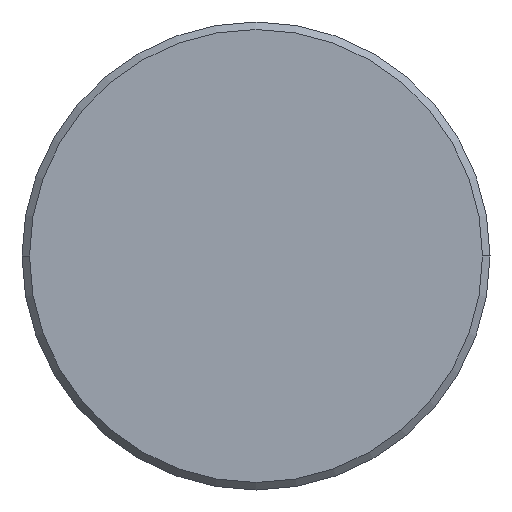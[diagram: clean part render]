
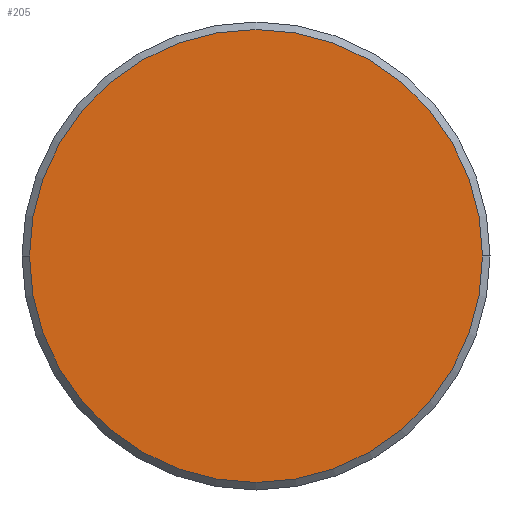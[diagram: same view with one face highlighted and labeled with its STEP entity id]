
A CAD part, left-side view. The second image highlights one B-rep face of the part: STEP entity #205.
In plain terms, the highlighted planar face has unit normal (-1, 0, 0).
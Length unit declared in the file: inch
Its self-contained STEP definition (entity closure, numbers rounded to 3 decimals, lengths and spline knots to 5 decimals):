
#8 = CARTESIAN_POINT ( 'NONE',  ( 0., 0., 0. ) ) ;
#26 = DIRECTION ( 'NONE',  ( -1., 0., 0. ) ) ;
#54 = CARTESIAN_POINT ( 'NONE',  ( 0., 0., 0. ) ) ;
#60 = EDGE_CURVE ( 'NONE', #247, #241, #161, .T. ) ;
#76 = AXIS2_PLACEMENT_3D ( 'NONE', #316, #26, #233 ) ;
#82 = AXIS2_PLACEMENT_3D ( 'NONE', #8, #213, #162 ) ;
#99 = CARTESIAN_POINT ( 'NONE',  ( 0., 0.121, 0. ) ) ;
#105 = AXIS2_PLACEMENT_3D ( 'NONE', #54, #249, #337 ) ;
#148 = ORIENTED_EDGE ( 'NONE', *, *, #60, .T. ) ;
#161 = CIRCLE ( 'NONE', #105, 0.121 ) ;
#162 = DIRECTION ( 'NONE',  ( 0., -1., 0. ) ) ;
#205 = ADVANCED_FACE ( 'NONE', ( #271 ), #284, .T. ) ;
#213 = DIRECTION ( 'NONE',  ( -1., 0., 0. ) ) ;
#233 = DIRECTION ( 'NONE',  ( 0., -1., 0. ) ) ;
#241 = VERTEX_POINT ( 'NONE', #99 ) ;
#247 = VERTEX_POINT ( 'NONE', #291 ) ;
#249 = DIRECTION ( 'NONE',  ( -1., 0., 0. ) ) ;
#250 = EDGE_LOOP ( 'NONE', ( #282, #148 ) ) ;
#271 = FACE_OUTER_BOUND ( 'NONE', #250, .T. ) ;
#282 = ORIENTED_EDGE ( 'NONE', *, *, #315, .T. ) ;
#284 = PLANE ( 'NONE',  #76 ) ;
#291 = CARTESIAN_POINT ( 'NONE',  ( 0., -0.121, 0. ) ) ;
#315 = EDGE_CURVE ( 'NONE', #241, #247, #333, .T. ) ;
#316 = CARTESIAN_POINT ( 'NONE',  ( 0., 0., 0. ) ) ;
#333 = CIRCLE ( 'NONE', #82, 0.121 ) ;
#337 = DIRECTION ( 'NONE',  ( 0., -1., 0. ) ) ;
